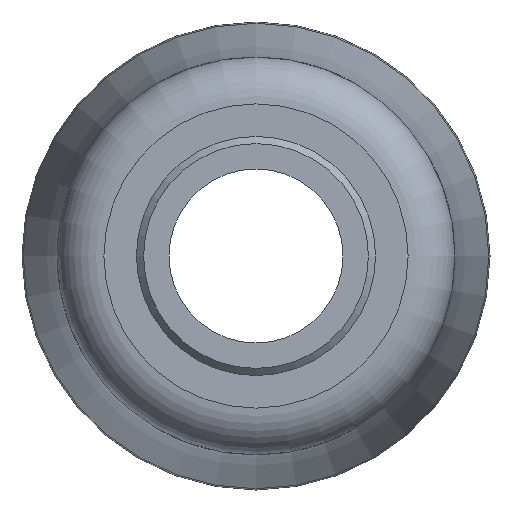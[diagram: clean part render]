
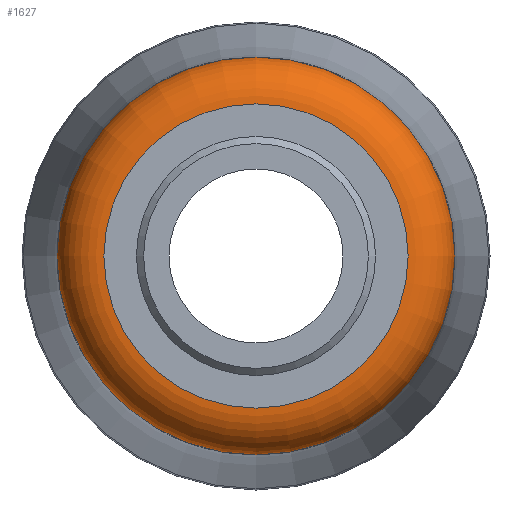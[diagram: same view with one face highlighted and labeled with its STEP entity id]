
A CAD part, left-side view. The second image highlights one B-rep face of the part: STEP entity #1627.
In plain terms, the highlighted toroidal (fillet/blend) face has major radius 13.325 mm and minor radius 4.1 mm.
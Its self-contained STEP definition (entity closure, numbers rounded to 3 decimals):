
#15=TOROIDAL_SURFACE('',#1778,13.325,4.1);
#343=FACE_BOUND('',#490,.T.);
#382=FACE_OUTER_BOUND('',#489,.T.);
#489=EDGE_LOOP('',(#1156));
#490=EDGE_LOOP('',(#1157));
#621=CIRCLE('',#1779,13.325);
#622=CIRCLE('',#1780,17.425);
#723=VERTEX_POINT('',#2795);
#724=VERTEX_POINT('',#2797);
#889=EDGE_CURVE('',#723,#723,#621,.T.);
#890=EDGE_CURVE('',#724,#724,#622,.T.);
#1156=ORIENTED_EDGE('',*,*,#889,.T.);
#1157=ORIENTED_EDGE('',*,*,#890,.T.);
#1627=ADVANCED_FACE('',(#382,#343),#15,.T.);
#1778=AXIS2_PLACEMENT_3D('',#2794,#2059,#2060);
#1779=AXIS2_PLACEMENT_3D('',#2796,#2061,#2062);
#1780=AXIS2_PLACEMENT_3D('',#2798,#2063,#2064);
#2059=DIRECTION('center_axis',(1.,0.,0.));
#2060=DIRECTION('ref_axis',(0.,0.,-1.));
#2061=DIRECTION('center_axis',(1.,0.,0.));
#2062=DIRECTION('ref_axis',(0.,-1.,0.));
#2063=DIRECTION('center_axis',(-1.,0.,0.));
#2064=DIRECTION('ref_axis',(0.,-1.,0.));
#2794=CARTESIAN_POINT('Origin',(17.1,0.,0.));
#2795=CARTESIAN_POINT('',(13.,13.325,0.));
#2796=CARTESIAN_POINT('Origin',(13.,0.,0.));
#2797=CARTESIAN_POINT('',(17.1,17.425,0.));
#2798=CARTESIAN_POINT('Origin',(17.1,0.,0.));
